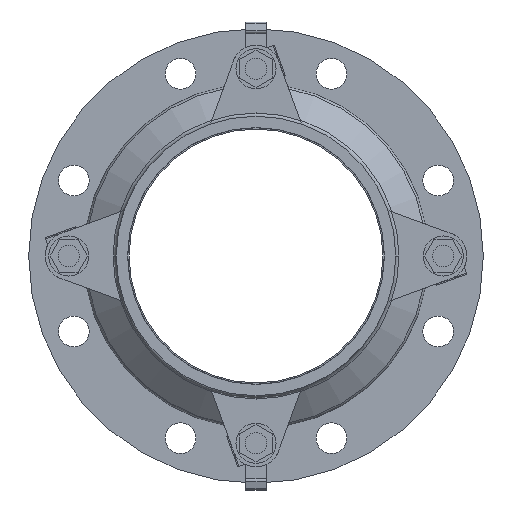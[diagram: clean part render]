
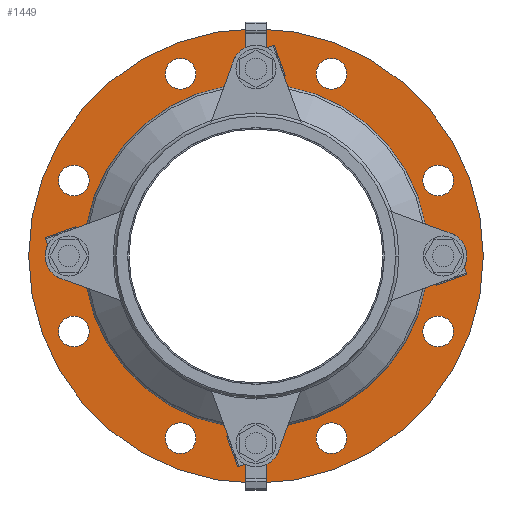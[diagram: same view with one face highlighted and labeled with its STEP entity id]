
A CAD part, left-side view. The second image highlights one B-rep face of the part: STEP entity #1449.
In plain terms, the highlighted planar face has unit normal (-1, 0, 0).
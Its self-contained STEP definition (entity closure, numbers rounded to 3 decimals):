
#1449=ADVANCED_FACE('',(#2691,#2692,#2693,#2694,#2695,#2696,#2697,#2698,#2699,#2700),#2701,.T.);
#2691=FACE_BOUND('',#4054,.T.);
#2692=FACE_BOUND('',#4055,.T.);
#2693=FACE_BOUND('',#4056,.T.);
#2694=FACE_BOUND('',#4057,.T.);
#2695=FACE_BOUND('',#4058,.T.);
#2696=FACE_BOUND('',#4059,.T.);
#2697=FACE_BOUND('',#4060,.T.);
#2698=FACE_BOUND('',#4061,.T.);
#2699=FACE_BOUND('',#4062,.T.);
#2700=FACE_OUTER_BOUND('',#4063,.T.);
#2701=PLANE('',#4064);
#4054=EDGE_LOOP('',(#6730,#6731));
#4055=EDGE_LOOP('',(#6732,#6733));
#4056=EDGE_LOOP('',(#6734,#6735));
#4057=EDGE_LOOP('',(#6736,#6737));
#4058=EDGE_LOOP('',(#6738,#6739));
#4059=EDGE_LOOP('',(#6740,#6741));
#4060=EDGE_LOOP('',(#6742,#6743));
#4061=EDGE_LOOP('',(#6744,#6745));
#4062=EDGE_LOOP('',(#6746,#6747));
#4063=EDGE_LOOP('',(#6748,#6749));
#4064=AXIS2_PLACEMENT_3D('',#6750,#6751,#6752);
#6730=ORIENTED_EDGE('',*,*,#7962,.T.);
#6731=ORIENTED_EDGE('',*,*,#8389,.T.);
#6732=ORIENTED_EDGE('',*,*,#7470,.T.);
#6733=ORIENTED_EDGE('',*,*,#7361,.T.);
#6734=ORIENTED_EDGE('',*,*,#7952,.T.);
#6735=ORIENTED_EDGE('',*,*,#8390,.T.);
#6736=ORIENTED_EDGE('',*,*,#8369,.T.);
#6737=ORIENTED_EDGE('',*,*,#7886,.T.);
#6738=ORIENTED_EDGE('',*,*,#8374,.T.);
#6739=ORIENTED_EDGE('',*,*,#8218,.T.);
#6740=ORIENTED_EDGE('',*,*,#7967,.T.);
#6741=ORIENTED_EDGE('',*,*,#8214,.T.);
#6742=ORIENTED_EDGE('',*,*,#7818,.T.);
#6743=ORIENTED_EDGE('',*,*,#8391,.T.);
#6744=ORIENTED_EDGE('',*,*,#8392,.T.);
#6745=ORIENTED_EDGE('',*,*,#7803,.T.);
#6746=ORIENTED_EDGE('',*,*,#8052,.T.);
#6747=ORIENTED_EDGE('',*,*,#8284,.T.);
#6748=ORIENTED_EDGE('',*,*,#7432,.F.);
#6749=ORIENTED_EDGE('',*,*,#8348,.F.);
#6750=CARTESIAN_POINT('',(-616.5,-509.412,364.084));
#6751=DIRECTION('',(-1.0,0.0,0.));
#6752=DIRECTION('',(0.,0.0,-1.0));
#7361=EDGE_CURVE('',#8593,#8590,#8594,.T.);
#7432=EDGE_CURVE('',#8718,#8720,#8721,.T.);
#7470=EDGE_CURVE('',#8590,#8593,#8785,.T.);
#7803=EDGE_CURVE('',#9317,#9314,#9318,.T.);
#7818=EDGE_CURVE('',#9335,#9340,#9342,.T.);
#7886=EDGE_CURVE('',#9445,#9442,#9446,.T.);
#7952=EDGE_CURVE('',#9533,#9538,#9540,.T.);
#7962=EDGE_CURVE('',#9551,#9556,#9558,.T.);
#7967=EDGE_CURVE('',#9560,#9565,#9567,.T.);
#8052=EDGE_CURVE('',#9677,#9682,#9684,.T.);
#8214=EDGE_CURVE('',#9565,#9560,#9904,.T.);
#8218=EDGE_CURVE('',#9910,#9907,#9911,.T.);
#8284=EDGE_CURVE('',#9682,#9677,#9986,.T.);
#8348=EDGE_CURVE('',#8720,#8718,#10055,.T.);
#8369=EDGE_CURVE('',#9442,#9445,#10077,.T.);
#8374=EDGE_CURVE('',#9907,#9910,#10082,.T.);
#8389=EDGE_CURVE('',#9556,#9551,#10098,.T.);
#8390=EDGE_CURVE('',#9538,#9533,#10099,.T.);
#8391=EDGE_CURVE('',#9340,#9335,#10100,.T.);
#8392=EDGE_CURVE('',#9314,#9317,#10101,.T.);
#8590=VERTEX_POINT('',#10329);
#8593=VERTEX_POINT('',#10333);
#8594=CIRCLE('',#10334,11.5);
#8718=VERTEX_POINT('',#10502);
#8720=VERTEX_POINT('',#10505);
#8721=CIRCLE('',#10506,170.0);
#8785=CIRCLE('',#10585,11.5);
#9314=VERTEX_POINT('',#11280);
#9317=VERTEX_POINT('',#11284);
#9318=CIRCLE('',#11285,11.5);
#9335=VERTEX_POINT('',#11307);
#9340=VERTEX_POINT('',#11313);
#9342=CIRCLE('',#11316,11.5);
#9442=VERTEX_POINT('',#11454);
#9445=VERTEX_POINT('',#11458);
#9446=CIRCLE('',#11459,11.5);
#9533=VERTEX_POINT('',#11574);
#9538=VERTEX_POINT('',#11580);
#9540=CIRCLE('',#11583,11.5);
#9551=VERTEX_POINT('',#11596);
#9556=VERTEX_POINT('',#11602);
#9558=CIRCLE('',#11605,11.5);
#9560=VERTEX_POINT('',#11607);
#9565=VERTEX_POINT('',#11613);
#9567=CIRCLE('',#11616,11.5);
#9677=VERTEX_POINT('',#11759);
#9682=VERTEX_POINT('',#11765);
#9684=CIRCLE('',#11768,100.0);
#9904=CIRCLE('',#12072,11.5);
#9907=VERTEX_POINT('',#12075);
#9910=VERTEX_POINT('',#12079);
#9911=CIRCLE('',#12080,11.5);
#9986=CIRCLE('',#12176,100.0);
#10055=CIRCLE('',#12269,170.0);
#10077=CIRCLE('',#12297,11.5);
#10082=CIRCLE('',#12303,11.5);
#10098=CIRCLE('',#12325,11.5);
#10099=CIRCLE('',#12326,11.5);
#10100=CIRCLE('',#12327,11.5);
#10101=CIRCLE('',#12328,11.5);
#10329=CARTESIAN_POINT('',(-616.5,-645.684,409.03));
#10333=CARTESIAN_POINT('',(-616.5,-645.684,432.03));
#10334=AXIS2_PLACEMENT_3D('',#12526,#12527,#12528);
#10502=CARTESIAN_POINT('',(-616.5,-509.412,194.084));
#10505=CARTESIAN_POINT('',(-616.5,-509.412,534.084));
#10506=AXIS2_PLACEMENT_3D('',#12613,#12614,#12615);
#10585=AXIS2_PLACEMENT_3D('',#12676,#12677,#12678);
#11280=CARTESIAN_POINT('',(-616.5,-452.966,488.856));
#11284=CARTESIAN_POINT('',(-616.5,-452.966,511.856));
#11285=AXIS2_PLACEMENT_3D('',#13098,#13099,#13100);
#11307=CARTESIAN_POINT('',(-616.5,-373.14,409.03));
#11313=CARTESIAN_POINT('',(-616.5,-373.14,432.03));
#11316=AXIS2_PLACEMENT_3D('',#13120,#13121,#13122);
#11454=CARTESIAN_POINT('',(-616.5,-565.858,216.312));
#11458=CARTESIAN_POINT('',(-616.5,-565.858,239.312));
#11459=AXIS2_PLACEMENT_3D('',#13195,#13196,#13197);
#11574=CARTESIAN_POINT('',(-616.5,-645.684,296.138));
#11580=CARTESIAN_POINT('',(-616.5,-645.684,319.138));
#11583=AXIS2_PLACEMENT_3D('',#13270,#13271,#13272);
#11596=CARTESIAN_POINT('',(-616.5,-565.858,488.856));
#11602=CARTESIAN_POINT('',(-616.5,-565.858,511.856));
#11605=AXIS2_PLACEMENT_3D('',#13286,#13287,#13288);
#11607=CARTESIAN_POINT('',(-616.5,-373.14,296.138));
#11613=CARTESIAN_POINT('',(-616.5,-373.14,319.138));
#11616=AXIS2_PLACEMENT_3D('',#13294,#13295,#13296);
#11759=CARTESIAN_POINT('',(-616.5,-509.412,264.084));
#11765=CARTESIAN_POINT('',(-616.5,-509.412,464.084));
#11768=AXIS2_PLACEMENT_3D('',#13395,#13396,#13397);
#12072=AXIS2_PLACEMENT_3D('',#13545,#13546,#13547);
#12075=CARTESIAN_POINT('',(-616.5,-452.966,216.312));
#12079=CARTESIAN_POINT('',(-616.5,-452.966,239.312));
#12080=AXIS2_PLACEMENT_3D('',#13552,#13553,#13554);
#12176=AXIS2_PLACEMENT_3D('',#13633,#13634,#13635);
#12269=AXIS2_PLACEMENT_3D('',#13675,#13676,#13677);
#12297=AXIS2_PLACEMENT_3D('',#13690,#13691,#13692);
#12303=AXIS2_PLACEMENT_3D('',#13694,#13695,#13696);
#12325=AXIS2_PLACEMENT_3D('',#13703,#13704,#13705);
#12326=AXIS2_PLACEMENT_3D('',#13706,#13707,#13708);
#12327=AXIS2_PLACEMENT_3D('',#13709,#13710,#13711);
#12328=AXIS2_PLACEMENT_3D('',#13712,#13713,#13714);
#12526=CARTESIAN_POINT('',(-616.5,-645.684,420.53));
#12527=DIRECTION('',(1.0,0.0,0.));
#12528=DIRECTION('',(0.,0.0,-1.0));
#12613=CARTESIAN_POINT('',(-616.5,-509.412,364.084));
#12614=DIRECTION('',(1.0,0.0,0.));
#12615=DIRECTION('',(0.,0.0,-1.0));
#12676=CARTESIAN_POINT('',(-616.5,-645.684,420.53));
#12677=DIRECTION('',(1.0,0.0,0.));
#12678=DIRECTION('',(0.,0.0,-1.0));
#13098=CARTESIAN_POINT('',(-616.5,-452.966,500.356));
#13099=DIRECTION('',(1.0,0.0,0.));
#13100=DIRECTION('',(0.,0.0,-1.0));
#13120=CARTESIAN_POINT('',(-616.5,-373.14,420.53));
#13121=DIRECTION('',(1.0,0.0,0.));
#13122=DIRECTION('',(0.,0.0,-1.0));
#13195=CARTESIAN_POINT('',(-616.5,-565.858,227.812));
#13196=DIRECTION('',(1.0,0.0,0.));
#13197=DIRECTION('',(0.,0.0,-1.0));
#13270=CARTESIAN_POINT('',(-616.5,-645.684,307.638));
#13271=DIRECTION('',(1.0,0.0,0.));
#13272=DIRECTION('',(0.,0.0,-1.0));
#13286=CARTESIAN_POINT('',(-616.5,-565.858,500.356));
#13287=DIRECTION('',(1.0,0.0,0.));
#13288=DIRECTION('',(0.,0.0,-1.0));
#13294=CARTESIAN_POINT('',(-616.5,-373.14,307.638));
#13295=DIRECTION('',(1.0,0.0,0.));
#13296=DIRECTION('',(0.,0.0,-1.0));
#13395=CARTESIAN_POINT('',(-616.5,-509.412,364.084));
#13396=DIRECTION('',(1.0,0.0,0.));
#13397=DIRECTION('',(0.,0.0,-1.0));
#13545=CARTESIAN_POINT('',(-616.5,-373.14,307.638));
#13546=DIRECTION('',(1.0,0.0,0.));
#13547=DIRECTION('',(0.,0.0,-1.0));
#13552=CARTESIAN_POINT('',(-616.5,-452.966,227.812));
#13553=DIRECTION('',(1.0,0.0,0.));
#13554=DIRECTION('',(0.,0.0,-1.0));
#13633=CARTESIAN_POINT('',(-616.5,-509.412,364.084));
#13634=DIRECTION('',(1.0,0.0,0.));
#13635=DIRECTION('',(0.,0.0,-1.0));
#13675=CARTESIAN_POINT('',(-616.5,-509.412,364.084));
#13676=DIRECTION('',(1.0,0.0,0.));
#13677=DIRECTION('',(0.,0.0,-1.0));
#13690=CARTESIAN_POINT('',(-616.5,-565.858,227.812));
#13691=DIRECTION('',(1.0,0.0,0.));
#13692=DIRECTION('',(0.,0.0,-1.0));
#13694=CARTESIAN_POINT('',(-616.5,-452.966,227.812));
#13695=DIRECTION('',(1.0,0.0,0.));
#13696=DIRECTION('',(0.,0.0,-1.0));
#13703=CARTESIAN_POINT('',(-616.5,-565.858,500.356));
#13704=DIRECTION('',(1.0,0.0,0.));
#13705=DIRECTION('',(0.,0.0,-1.0));
#13706=CARTESIAN_POINT('',(-616.5,-645.684,307.638));
#13707=DIRECTION('',(1.0,0.0,0.));
#13708=DIRECTION('',(0.,0.0,-1.0));
#13709=CARTESIAN_POINT('',(-616.5,-373.14,420.53));
#13710=DIRECTION('',(1.0,0.0,0.));
#13711=DIRECTION('',(0.,0.0,-1.0));
#13712=CARTESIAN_POINT('',(-616.5,-452.966,500.356));
#13713=DIRECTION('',(1.0,0.0,0.));
#13714=DIRECTION('',(0.,0.0,-1.0));
